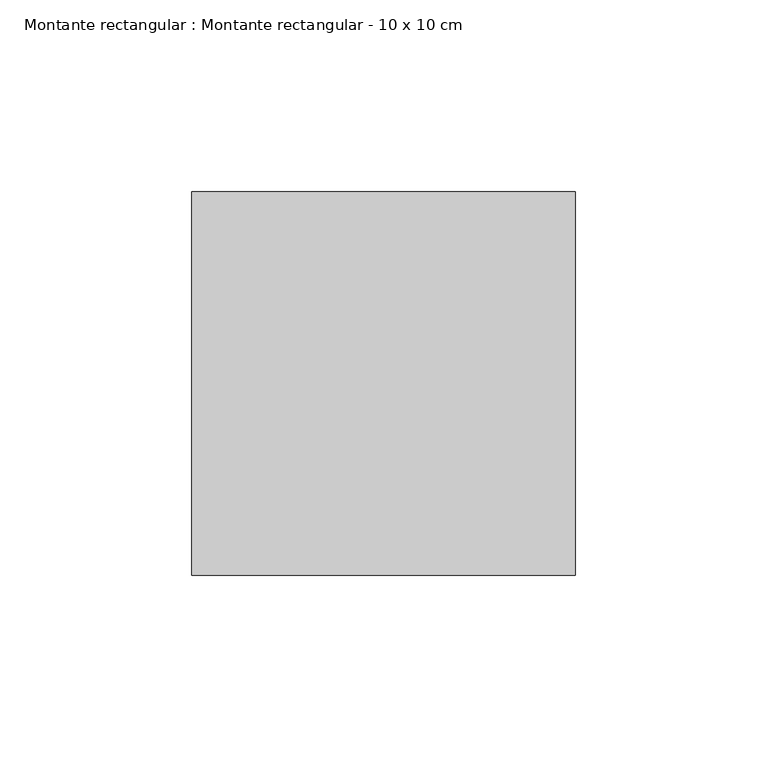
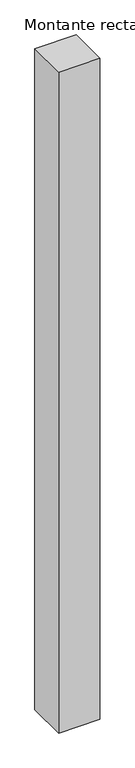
"""IFC4 building model written with IfcOpenShell, lengths in millimetres: member geometry, Montante rectangular : Montante rectangular - 10 x 10 cm."""

from ifc_helpers import new_model, si_unit, frame, origin, place, context, project, spatial, polyline, outline, extrude, source, transform, mapped, element, save


def montante_rectangular_montante_rectangular_10_x_10_cm_38f8c7a2(model_context):
    return source(origin(), model_context, "Body", "SweptSolid", [
        extrude(outline(polyline([(0.0, 50.0), (0.0, -50.0), (-100.0, -50.0), (-100.0, 50.0), (0.0, 50.0)])), frame((0.0, 0.0, -1700.0), z_axis=(0.0, 0.0, 1.0), x_axis=(1.0, 0.0, 0.0)), (0.0, 0.0, 1.0), 1700.0),
    ])


if __name__ == "__main__":
    model = new_model("IFC4")
    model_context = context("Model", 3, world=origin())
    ifc_project = project(units=[si_unit("LENGTHUNIT", "METRE", prefix="MILLI")], contexts=[model_context])
    site = spatial("IfcSite", under=ifc_project)
    building = spatial("IfcBuilding", under=site)
    placement = place(None, origin())
    montante_rectangular_montante_rectangular_10_x_10_cm_shape = montante_rectangular_montante_rectangular_10_x_10_cm_38f8c7a2(model_context)
    element("IfcMember", 1, ObjectType="Montante rectangular : Montante rectangular - 10 x 10 cm", at=placement, inside=building, context=model_context, shape_type="MappedRepresentation", body=[
        mapped(montante_rectangular_montante_rectangular_10_x_10_cm_shape, transform((0.0, 0.0, 0.0), x_axis=(1.0, 0.0, 0.0), y_axis=(0.0, 1.0, 0.0), z_axis=(0.0, 0.0, 1.0))),
    ])
    save(model, "model.ifc")
